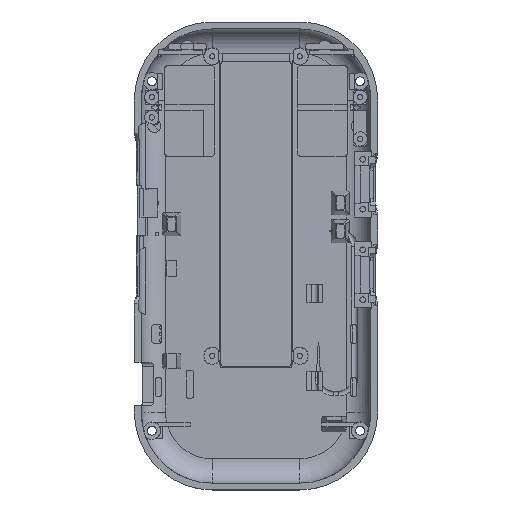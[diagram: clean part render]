
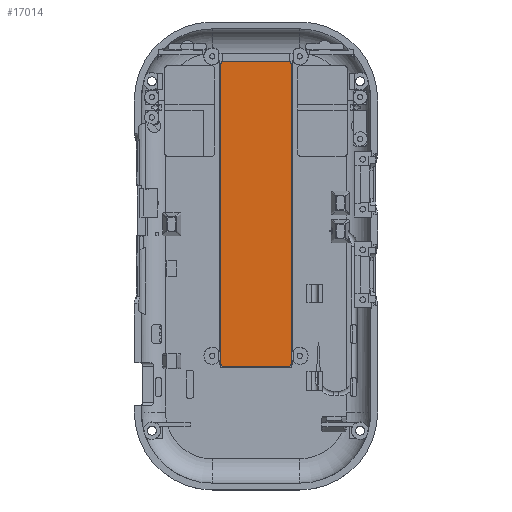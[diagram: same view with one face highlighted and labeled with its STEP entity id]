
A CAD part, top view. The second image highlights one B-rep face of the part: STEP entity #17014.
In plain terms, the highlighted planar face has unit normal (0, 0, 1).
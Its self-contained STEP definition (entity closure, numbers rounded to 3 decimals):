
#714=CIRCLE('',#17891,1.);
#717=CIRCLE('',#17896,1.);
#876=CIRCLE('',#18303,1.);
#877=CIRCLE('',#18305,1.);
#1712=FACE_OUTER_BOUND('',#2614,.T.);
#2614=EDGE_LOOP('',(#12908,#12909,#12910,#12911,#12912,#12913,#12914,#12915));
#3936=LINE('',#33855,#5524);
#3939=LINE('',#33862,#5527);
#3940=LINE('',#33864,#5528);
#3941=LINE('',#33867,#5529);
#5524=VECTOR('',#21329,1.);
#5527=VECTOR('',#21338,1.);
#5528=VECTOR('',#21339,1.);
#5529=VECTOR('',#21342,1.);
#6833=VERTEX_POINT('',#26706);
#6835=VERTEX_POINT('',#26710);
#6837=VERTEX_POINT('',#26718);
#6839=VERTEX_POINT('',#26722);
#7386=VERTEX_POINT('',#33854);
#7387=VERTEX_POINT('',#33858);
#7388=VERTEX_POINT('',#33863);
#7389=VERTEX_POINT('',#33865);
#8715=EDGE_CURVE('',#6833,#6835,#714,.T.);
#8721=EDGE_CURVE('',#6837,#6839,#717,.T.);
#9481=EDGE_CURVE('',#6833,#7386,#3936,.T.);
#9484=EDGE_CURVE('',#7387,#7386,#876,.T.);
#9485=EDGE_CURVE('',#6835,#6837,#3939,.T.);
#9486=EDGE_CURVE('',#6839,#7388,#3940,.T.);
#9487=EDGE_CURVE('',#7388,#7389,#877,.T.);
#9488=EDGE_CURVE('',#7387,#7389,#3941,.T.);
#12908=ORIENTED_EDGE('',*,*,#9481,.F.);
#12909=ORIENTED_EDGE('',*,*,#8715,.T.);
#12910=ORIENTED_EDGE('',*,*,#9485,.T.);
#12911=ORIENTED_EDGE('',*,*,#8721,.T.);
#12912=ORIENTED_EDGE('',*,*,#9486,.T.);
#12913=ORIENTED_EDGE('',*,*,#9487,.T.);
#12914=ORIENTED_EDGE('',*,*,#9488,.F.);
#12915=ORIENTED_EDGE('',*,*,#9484,.T.);
#16324=PLANE('',#18304);
#17014=ADVANCED_FACE('',(#1712),#16324,.T.);
#17891=AXIS2_PLACEMENT_3D('',#26712,#20087,#20088);
#17896=AXIS2_PLACEMENT_3D('',#26724,#20100,#20101);
#18303=AXIS2_PLACEMENT_3D('',#33860,#21334,#21335);
#18304=AXIS2_PLACEMENT_3D('',#33861,#21336,#21337);
#18305=AXIS2_PLACEMENT_3D('',#33866,#21340,#21341);
#20087=DIRECTION('center_axis',(0.,0.,1.));
#20088=DIRECTION('ref_axis',(1.,0.,0.));
#20100=DIRECTION('center_axis',(0.,0.,1.));
#20101=DIRECTION('ref_axis',(1.,0.,0.));
#21329=DIRECTION('',(0.,1.,0.));
#21334=DIRECTION('center_axis',(0.,0.,1.));
#21335=DIRECTION('ref_axis',(1.,0.,0.));
#21336=DIRECTION('center_axis',(0.,0.,1.));
#21337=DIRECTION('ref_axis',(1.,0.,0.));
#21338=DIRECTION('',(1.,0.,0.));
#21339=DIRECTION('',(0.,1.,0.));
#21340=DIRECTION('center_axis',(0.,0.,1.));
#21341=DIRECTION('ref_axis',(1.,0.,0.));
#21342=DIRECTION('',(1.,0.,0.));
#26706=CARTESIAN_POINT('',(-11.25,-34.5,-22.1));
#26710=CARTESIAN_POINT('',(-10.25,-35.5,-22.1));
#26712=CARTESIAN_POINT('Origin',(-10.25,-34.5,-22.1));
#26718=CARTESIAN_POINT('',(10.25,-35.5,-22.1));
#26722=CARTESIAN_POINT('',(11.25,-34.5,-22.1));
#26724=CARTESIAN_POINT('Origin',(10.25,-34.5,-22.1));
#33854=CARTESIAN_POINT('',(-11.25,61.5,-22.1));
#33855=CARTESIAN_POINT('',(-11.25,13.5,-22.1));
#33858=CARTESIAN_POINT('',(-10.25,62.5,-22.1));
#33860=CARTESIAN_POINT('Origin',(-10.25,61.5,-22.1));
#33861=CARTESIAN_POINT('Origin',(0.,13.5,-22.1));
#33862=CARTESIAN_POINT('',(0.,-35.5,-22.1));
#33863=CARTESIAN_POINT('',(11.25,61.5,-22.1));
#33864=CARTESIAN_POINT('',(11.25,13.5,-22.1));
#33865=CARTESIAN_POINT('',(10.25,62.5,-22.1));
#33866=CARTESIAN_POINT('Origin',(10.25,61.5,-22.1));
#33867=CARTESIAN_POINT('',(0.,62.5,-22.1));
